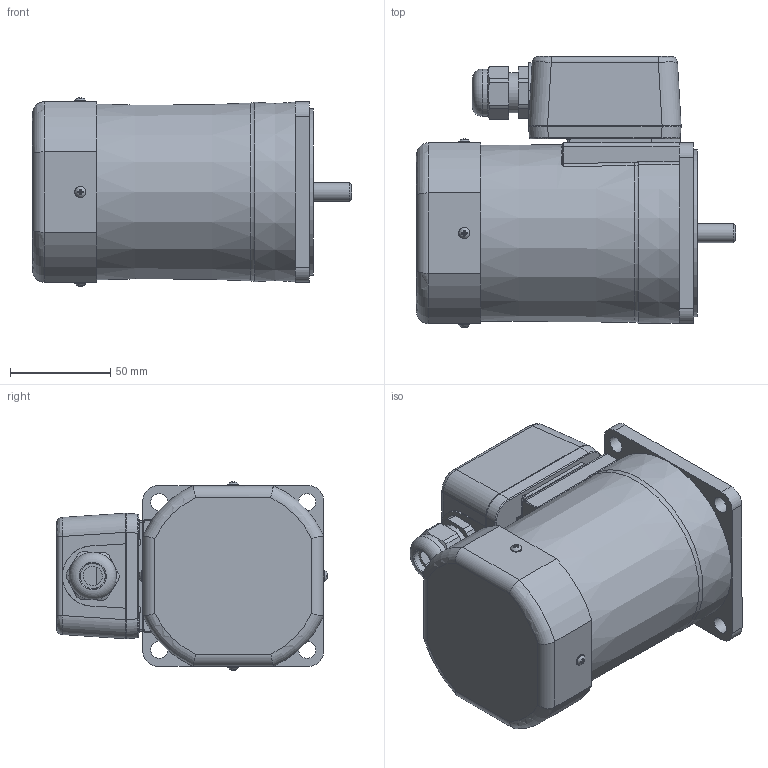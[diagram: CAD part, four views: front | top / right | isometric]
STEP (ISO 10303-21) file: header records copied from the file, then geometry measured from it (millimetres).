
FILE_DESCRIPTION(/* description */ (''),/* implementation_level */ '2;1');
FILE_NAME(/* name */ 'Y:\제품연구개발\3. 도면\3. 고객배포용\3D_홈페이지용\01-1 Standard AC SG Series\04 TERMINAL BOX TYPE MOTORS\REVERSIBLE TERMINAL BOX\SG9R90_-T_\SG9R90G_-T.stp',/* time_stamp */ '2023-12-06T13:51:20+09:00',/* author */ ('shyi1037'),/* organization */ (''),/* preprocessor_version */ 'ST-DEVELOPER v18.1',/* originating_system */ 'Autodesk Inventor 2022',/* authorisation */ '');
FILE_SCHEMA (('AUTOMOTIVE_DESIGN { 1 0 10303 214 3 1 1 }'));
Length unit declared in the file: millimetre
Products named in the file (1): SG9R90G_-T
Bounding box: 158.9 x 134.95 x 93.89 mm (x, y, z)
Volume: 1086369.7 mm3; surface area: 82797.8 mm2
Topology: 1 solids, 13 shells, 467 faces, 1175 edges, 754 vertices
Faces by surface type: plane 249, cylinder 120, bspline 56, torus 33, cone 9
Full cylindrical faces by diameter (mm): 2.55 x2, 3 x4, 3.5 x4, 5.6 x8, 6.3 x4, 8.5 x4, 9.33 x1, 12.5 x1, 15 x1, 20 x2, 21 x1, 23.6 x1, 40 x1, 83 x1
Entity records: 16772 total; most frequent: CARTESIAN_POINT 5444, ORIENTED_EDGE 2338, DIRECTION 2169, EDGE_CURVE 1169, AXIS2_PLACEMENT_3D 775, VERTEX_POINT 753, LINE 619, VECTOR 619
